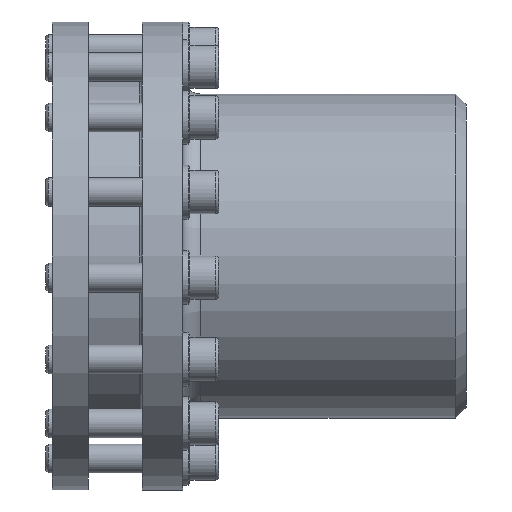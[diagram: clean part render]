
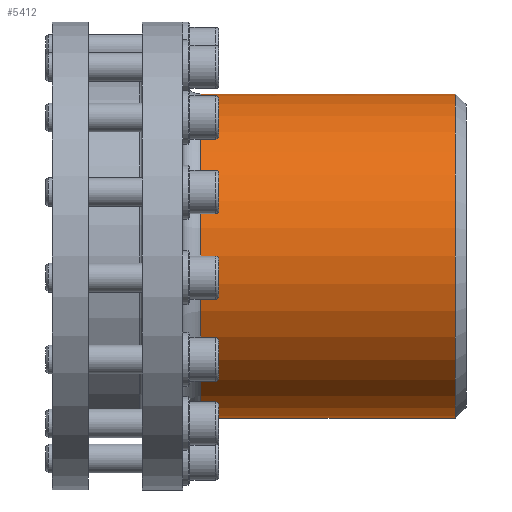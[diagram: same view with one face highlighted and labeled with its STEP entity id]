
A CAD part, front view. The second image highlights one B-rep face of the part: STEP entity #5412.
In plain terms, the highlighted cylindrical face has radius 90 mm (diameter 180 mm), a full revolution.
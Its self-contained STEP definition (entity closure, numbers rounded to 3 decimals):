
#14=B_SPLINE_CURVE_WITH_KNOTS('',3,(#9004,#9005,#9006,#9007,#9008,#9009,
#9010),.UNSPECIFIED.,.F.,.F.,(4,3,4),(2.849,3.013,
3.177),.UNSPECIFIED.);
#15=B_SPLINE_CURVE_WITH_KNOTS('',3,(#9012,#9013,#9014,#9015,#9016,#9017,
#9018,#9019,#9020,#9021),.UNSPECIFIED.,.F.,.F.,(4,2,2,2,4),(3.209,
3.237,3.427,3.617,3.808),
 .UNSPECIFIED.);
#16=B_SPLINE_CURVE_WITH_KNOTS('',3,(#9023,#9024,#9025,#9026,#9027,#9028,
#9029,#9030,#9031,#9032),.UNSPECIFIED.,.F.,.F.,(4,2,2,2,4),(0.762,
0.952,1.142,1.333,1.36),
 .UNSPECIFIED.);
#17=B_SPLINE_CURVE_WITH_KNOTS('',3,(#9034,#9035,#9036,#9037,#9038,#9039),
 .UNSPECIFIED.,.F.,.F.,(4,2,4),(1.343,1.507,1.67),
 .UNSPECIFIED.);
#18=B_SPLINE_CURVE_WITH_KNOTS('',3,(#9041,#9042,#9043,#9044,#9045,#9046,
#9047,#9048,#9049,#9050),.UNSPECIFIED.,.F.,.F.,(4,2,2,2,4),(1.686,
1.713,1.904,2.094,2.285),
 .UNSPECIFIED.);
#19=B_SPLINE_CURVE_WITH_KNOTS('',3,(#9051,#9052,#9053,#9054,#9055,#9056,
#9057,#9058,#9059,#9060),.UNSPECIFIED.,.F.,.F.,(4,2,2,2,4),(2.285,
2.475,2.665,2.856,2.883),
 .UNSPECIFIED.);
#624=CYLINDRICAL_SURFACE('',#6004,90.);
#947=FACE_BOUND('',#1935,.T.);
#948=FACE_BOUND('',#1936,.T.);
#1330=FACE_OUTER_BOUND('',#1934,.T.);
#1934=EDGE_LOOP('',(#4342));
#1935=EDGE_LOOP('',(#4343));
#1936=EDGE_LOOP('',(#4344,#4345,#4346,#4347,#4348,#4349));
#2265=CIRCLE('',#6005,90.);
#2266=CIRCLE('',#6006,90.);
#2717=VERTEX_POINT('',#8998);
#2718=VERTEX_POINT('',#9000);
#2719=VERTEX_POINT('',#9002);
#2720=VERTEX_POINT('',#9003);
#2721=VERTEX_POINT('',#9011);
#2722=VERTEX_POINT('',#9022);
#2723=VERTEX_POINT('',#9033);
#2724=VERTEX_POINT('',#9040);
#3277=EDGE_CURVE('',#2717,#2717,#2265,.T.);
#3278=EDGE_CURVE('',#2718,#2718,#2266,.T.);
#3279=EDGE_CURVE('',#2719,#2720,#14,.T.);
#3280=EDGE_CURVE('',#2719,#2721,#15,.T.);
#3281=EDGE_CURVE('',#2721,#2722,#16,.T.);
#3282=EDGE_CURVE('',#2723,#2722,#17,.T.);
#3283=EDGE_CURVE('',#2723,#2724,#18,.T.);
#3284=EDGE_CURVE('',#2724,#2720,#19,.T.);
#4342=ORIENTED_EDGE('',*,*,#3277,.F.);
#4343=ORIENTED_EDGE('',*,*,#3278,.F.);
#4344=ORIENTED_EDGE('',*,*,#3279,.F.);
#4345=ORIENTED_EDGE('',*,*,#3280,.T.);
#4346=ORIENTED_EDGE('',*,*,#3281,.T.);
#4347=ORIENTED_EDGE('',*,*,#3282,.F.);
#4348=ORIENTED_EDGE('',*,*,#3283,.T.);
#4349=ORIENTED_EDGE('',*,*,#3284,.T.);
#5412=ADVANCED_FACE('',(#1330,#947,#948),#624,.T.);
#6004=AXIS2_PLACEMENT_3D('',#8997,#7369,#7370);
#6005=AXIS2_PLACEMENT_3D('',#8999,#7371,#7372);
#6006=AXIS2_PLACEMENT_3D('',#9001,#7373,#7374);
#7369=DIRECTION('center_axis',(1.,0.,0.));
#7370=DIRECTION('ref_axis',(0.,1.,0.));
#7371=DIRECTION('center_axis',(-1.,0.,0.));
#7372=DIRECTION('ref_axis',(0.,-1.,0.));
#7373=DIRECTION('center_axis',(1.,0.,0.));
#7374=DIRECTION('ref_axis',(0.,-1.,0.));
#8997=CARTESIAN_POINT('Origin',(27.5,0.,0.));
#8998=CARTESIAN_POINT('',(-41.25,90.,0.));
#8999=CARTESIAN_POINT('Origin',(-41.25,0.,0.));
#9000=CARTESIAN_POINT('',(100.25,90.,0.));
#9001=CARTESIAN_POINT('Origin',(100.25,0.,0.));
#9002=CARTESIAN_POINT('',(54.585,-4.771,89.873));
#9003=CARTESIAN_POINT('',(57.915,-4.771,89.873));
#9004=CARTESIAN_POINT('Ctrl Pts',(54.585,-4.771,89.873));
#9005=CARTESIAN_POINT('Ctrl Pts',(55.127,-4.971,89.863));
#9006=CARTESIAN_POINT('Ctrl Pts',(55.704,-5.069,89.857));
#9007=CARTESIAN_POINT('Ctrl Pts',(56.25,-5.069,89.857));
#9008=CARTESIAN_POINT('Ctrl Pts',(56.796,-5.069,89.857));
#9009=CARTESIAN_POINT('Ctrl Pts',(57.373,-4.971,89.863));
#9010=CARTESIAN_POINT('Ctrl Pts',(57.915,-4.771,89.873));
#9011=CARTESIAN_POINT('',(51.197,0.,90.));
#9012=CARTESIAN_POINT('Ctrl Pts',(54.585,-4.771,89.873));
#9013=CARTESIAN_POINT('Ctrl Pts',(54.495,-4.739,89.875));
#9014=CARTESIAN_POINT('Ctrl Pts',(54.405,-4.705,89.877));
#9015=CARTESIAN_POINT('Ctrl Pts',(53.694,-4.41,89.892));
#9016=CARTESIAN_POINT('Ctrl Pts',(53.126,-4.022,89.911));
#9017=CARTESIAN_POINT('Ctrl Pts',(52.228,-3.124,89.947));
#9018=CARTESIAN_POINT('Ctrl Pts',(51.84,-2.556,89.966));
#9019=CARTESIAN_POINT('Ctrl Pts',(51.324,-1.311,89.993));
#9020=CARTESIAN_POINT('Ctrl Pts',(51.197,-0.635,90.));
#9021=CARTESIAN_POINT('Ctrl Pts',(51.197,0.,90.));
#9022=CARTESIAN_POINT('',(54.585,4.771,89.873));
#9023=CARTESIAN_POINT('Ctrl Pts',(51.197,0.,90.));
#9024=CARTESIAN_POINT('Ctrl Pts',(51.197,0.635,90.));
#9025=CARTESIAN_POINT('Ctrl Pts',(51.324,1.311,89.993));
#9026=CARTESIAN_POINT('Ctrl Pts',(51.84,2.556,89.966));
#9027=CARTESIAN_POINT('Ctrl Pts',(52.228,3.124,89.947));
#9028=CARTESIAN_POINT('Ctrl Pts',(53.126,4.022,89.911));
#9029=CARTESIAN_POINT('Ctrl Pts',(53.694,4.41,89.892));
#9030=CARTESIAN_POINT('Ctrl Pts',(54.405,4.705,89.877));
#9031=CARTESIAN_POINT('Ctrl Pts',(54.495,4.739,89.875));
#9032=CARTESIAN_POINT('Ctrl Pts',(54.585,4.771,89.873));
#9033=CARTESIAN_POINT('',(57.915,4.771,89.873));
#9034=CARTESIAN_POINT('Ctrl Pts',(57.915,4.771,89.873));
#9035=CARTESIAN_POINT('Ctrl Pts',(57.373,4.971,89.863));
#9036=CARTESIAN_POINT('Ctrl Pts',(56.796,5.069,89.857));
#9037=CARTESIAN_POINT('Ctrl Pts',(55.704,5.069,89.857));
#9038=CARTESIAN_POINT('Ctrl Pts',(55.127,4.971,89.863));
#9039=CARTESIAN_POINT('Ctrl Pts',(54.585,4.771,89.873));
#9040=CARTESIAN_POINT('',(61.303,0.,90.));
#9041=CARTESIAN_POINT('Ctrl Pts',(57.915,4.771,89.873));
#9042=CARTESIAN_POINT('Ctrl Pts',(58.005,4.739,89.875));
#9043=CARTESIAN_POINT('Ctrl Pts',(58.095,4.705,89.877));
#9044=CARTESIAN_POINT('Ctrl Pts',(58.806,4.41,89.892));
#9045=CARTESIAN_POINT('Ctrl Pts',(59.374,4.022,89.911));
#9046=CARTESIAN_POINT('Ctrl Pts',(60.272,3.124,89.947));
#9047=CARTESIAN_POINT('Ctrl Pts',(60.66,2.556,89.966));
#9048=CARTESIAN_POINT('Ctrl Pts',(61.176,1.311,89.993));
#9049=CARTESIAN_POINT('Ctrl Pts',(61.303,0.635,90.));
#9050=CARTESIAN_POINT('Ctrl Pts',(61.303,0.,90.));
#9051=CARTESIAN_POINT('Ctrl Pts',(61.303,0.,90.));
#9052=CARTESIAN_POINT('Ctrl Pts',(61.303,-0.635,90.));
#9053=CARTESIAN_POINT('Ctrl Pts',(61.176,-1.311,89.993));
#9054=CARTESIAN_POINT('Ctrl Pts',(60.66,-2.556,89.966));
#9055=CARTESIAN_POINT('Ctrl Pts',(60.272,-3.124,89.947));
#9056=CARTESIAN_POINT('Ctrl Pts',(59.374,-4.022,89.911));
#9057=CARTESIAN_POINT('Ctrl Pts',(58.806,-4.41,89.892));
#9058=CARTESIAN_POINT('Ctrl Pts',(58.095,-4.705,89.877));
#9059=CARTESIAN_POINT('Ctrl Pts',(58.005,-4.739,89.875));
#9060=CARTESIAN_POINT('Ctrl Pts',(57.915,-4.771,89.873));
